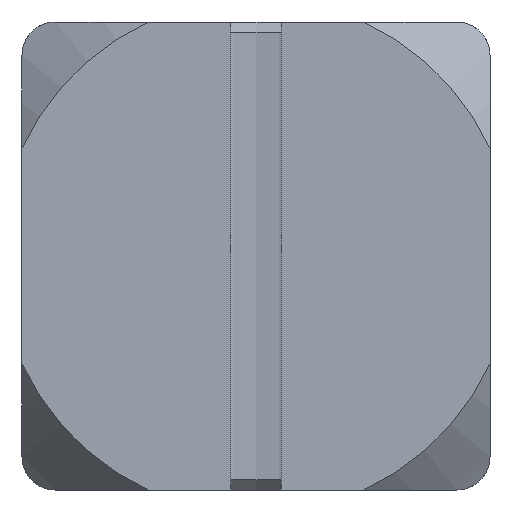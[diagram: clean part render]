
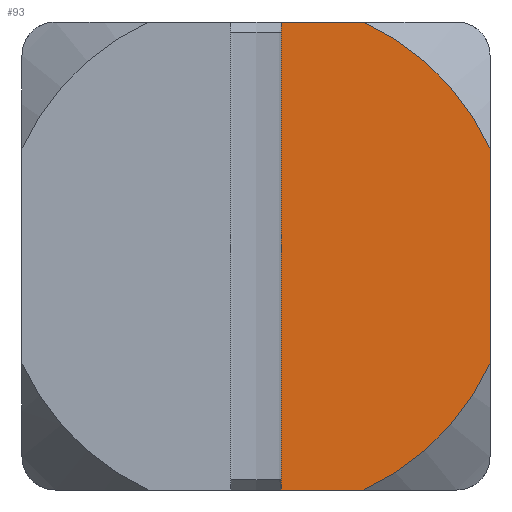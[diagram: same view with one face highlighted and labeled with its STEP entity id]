
A CAD part, left-side view. The second image highlights one B-rep face of the part: STEP entity #93.
In plain terms, the highlighted planar face has unit normal (-1, 0, 0).
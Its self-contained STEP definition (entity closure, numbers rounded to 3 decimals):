
#93 = ADVANCED_FACE( '', ( #156 ), #157, .F. );
#156 = FACE_OUTER_BOUND( '', #231, .T. );
#157 = PLANE( '', #232 );
#231 = EDGE_LOOP( '', ( #387, #388, #389, #390, #391, #392 ) );
#232 = AXIS2_PLACEMENT_3D( '', #393, #394, #395 );
#387 = ORIENTED_EDGE( '', *, *, #528, .T. );
#388 = ORIENTED_EDGE( '', *, *, #555, .T. );
#389 = ORIENTED_EDGE( '', *, *, #556, .F. );
#390 = ORIENTED_EDGE( '', *, *, #554, .F. );
#391 = ORIENTED_EDGE( '', *, *, #557, .F. );
#392 = ORIENTED_EDGE( '', *, *, #558, .F. );
#393 = CARTESIAN_POINT( '', ( -15.75, -0.75, 7. ) );
#394 = DIRECTION( '', ( 1., 0., 0. ) );
#395 = DIRECTION( '', ( 0., 0., -1. ) );
#528 = EDGE_CURVE( '', #628, #626, #629, .T. );
#554 = EDGE_CURVE( '', #673, #666, #675, .T. );
#555 = EDGE_CURVE( '', #626, #676, #677, .T. );
#556 = EDGE_CURVE( '', #666, #676, #678, .T. );
#557 = EDGE_CURVE( '', #679, #673, #680, .T. );
#558 = EDGE_CURVE( '', #628, #679, #681, .T. );
#626 = VERTEX_POINT( '', #839 );
#628 = VERTEX_POINT( '', #842 );
#629 = LINE( '', #843, #844 );
#666 = VERTEX_POINT( '', #904 );
#673 = VERTEX_POINT( '', #927 );
#675 = LINE( '', #934, #935 );
#676 = VERTEX_POINT( '', #936 );
#677 = LINE( '', #937, #938 );
#678 = CIRCLE( '', #939, 7.7 );
#679 = VERTEX_POINT( '', #940 );
#680 = CIRCLE( '', #941, 7.7 );
#681 = LINE( '', #942, #943 );
#839 = CARTESIAN_POINT( '', ( -15.75, -0.75, -7. ) );
#842 = CARTESIAN_POINT( '', ( -15.75, -0.75, 7. ) );
#843 = CARTESIAN_POINT( '', ( -15.75, -0.75, 7. ) );
#844 = VECTOR( '', #1054, 1000. );
#904 = CARTESIAN_POINT( '', ( -15.75, -7., -3.208 ) );
#927 = CARTESIAN_POINT( '', ( -15.75, -7., 3.208 ) );
#934 = CARTESIAN_POINT( '', ( -15.75, -7., 7. ) );
#935 = VECTOR( '', #1091, 1000. );
#936 = CARTESIAN_POINT( '', ( -15.75, -3.208, -7. ) );
#937 = CARTESIAN_POINT( '', ( -15.75, -0.75, -7. ) );
#938 = VECTOR( '', #1092, 1000. );
#939 = AXIS2_PLACEMENT_3D( '', #1093, #1094, #1095 );
#940 = CARTESIAN_POINT( '', ( -15.75, -3.208, 7. ) );
#941 = AXIS2_PLACEMENT_3D( '', #1096, #1097, #1098 );
#942 = CARTESIAN_POINT( '', ( -15.75, -0.75, 7. ) );
#943 = VECTOR( '', #1099, 1000. );
#1054 = DIRECTION( '', ( 0., 0., -1. ) );
#1091 = DIRECTION( '', ( 0., 0., -1. ) );
#1092 = DIRECTION( '', ( 0., -1., 0. ) );
#1093 = CARTESIAN_POINT( '', ( -15.75, 0., 0. ) );
#1094 = DIRECTION( '', ( 1., 0., 0. ) );
#1095 = DIRECTION( '', ( 0., 0., -1. ) );
#1096 = CARTESIAN_POINT( '', ( -15.75, 0., 0. ) );
#1097 = DIRECTION( '', ( 1., 0., 0. ) );
#1098 = DIRECTION( '', ( 0., 0., -1. ) );
#1099 = DIRECTION( '', ( 0., -1., 0. ) );
